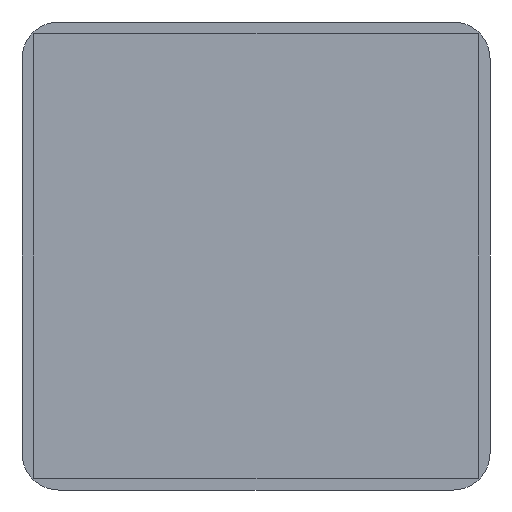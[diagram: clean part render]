
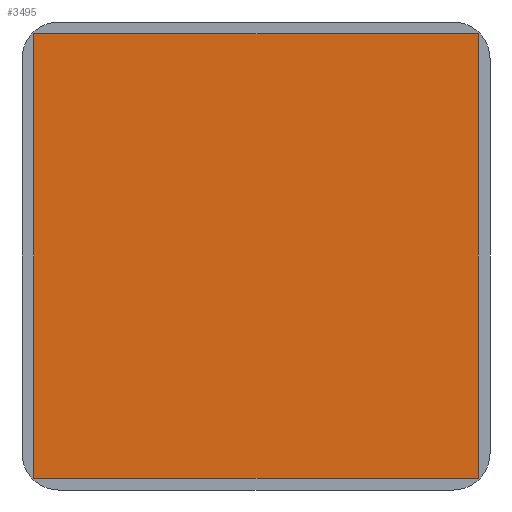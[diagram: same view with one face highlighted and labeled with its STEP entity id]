
A CAD part, front view. The second image highlights one B-rep face of the part: STEP entity #3495.
In plain terms, the highlighted planar face has unit normal (0, -1, 0).
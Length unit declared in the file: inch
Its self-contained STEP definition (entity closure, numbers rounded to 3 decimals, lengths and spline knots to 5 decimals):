
#15 = ORIENTED_EDGE ( 'NONE', *, *, #3792, .T. ) ;
#75 = VERTEX_POINT ( 'NONE', #8467 ) ;
#282 = ORIENTED_EDGE ( 'NONE', *, *, #5200, .T. ) ;
#359 = CARTESIAN_POINT ( 'NONE',  ( 0.7874, -0.005, -0.7874 ) ) ;
#2169 = VECTOR ( 'NONE', #8563, 39.37008 ) ;
#2179 = VECTOR ( 'NONE', #8699, 39.37008 ) ;
#2326 = EDGE_CURVE ( 'NONE', #7856, #75, #4752, .T. ) ;
#2500 = DIRECTION ( 'NONE',  ( 0., 0., 1. ) ) ;
#3152 = VECTOR ( 'NONE', #4845, 39.37008 ) ;
#3268 = ORIENTED_EDGE ( 'NONE', *, *, #2326, .T. ) ;
#3272 = LINE ( 'NONE', #359, #8186 ) ;
#3495 = ADVANCED_FACE ( 'NONE', ( #3629 ), #6594, .T. ) ;
#3629 = FACE_OUTER_BOUND ( 'NONE', #7209, .T. ) ;
#3792 = EDGE_CURVE ( 'NONE', #4961, #9429, #5529, .T. ) ;
#3922 = CARTESIAN_POINT ( 'NONE',  ( 0.7874, -0.005, -0.7874 ) ) ;
#4040 = CARTESIAN_POINT ( 'NONE',  ( 0.7874, -0.005, -0.7874 ) ) ;
#4268 = CARTESIAN_POINT ( 'NONE',  ( -0.7874, -0.005, 0.7874 ) ) ;
#4752 = LINE ( 'NONE', #7769, #3152 ) ;
#4845 = DIRECTION ( 'NONE',  ( 0., 0., -1. ) ) ;
#4934 = EDGE_CURVE ( 'NONE', #75, #4961, #3272, .T. ) ;
#4961 = VERTEX_POINT ( 'NONE', #3922 ) ;
#5200 = EDGE_CURVE ( 'NONE', #9429, #7856, #5386, .T. ) ;
#5386 = LINE ( 'NONE', #8385, #2179 ) ;
#5500 = DIRECTION ( 'NONE',  ( 1., 0., 0. ) ) ;
#5529 = LINE ( 'NONE', #4040, #2169 ) ;
#6141 = CARTESIAN_POINT ( 'NONE',  ( 0.7874, -0.005, 0.7874 ) ) ;
#6594 = PLANE ( 'NONE',  #9486 ) ;
#7031 = DIRECTION ( 'NONE',  ( 0., -1., 0. ) ) ;
#7209 = EDGE_LOOP ( 'NONE', ( #15, #282, #3268, #7998 ) ) ;
#7769 = CARTESIAN_POINT ( 'NONE',  ( -0.7874, -0.005, -0.7874 ) ) ;
#7856 = VERTEX_POINT ( 'NONE', #4268 ) ;
#7998 = ORIENTED_EDGE ( 'NONE', *, *, #4934, .T. ) ;
#8186 = VECTOR ( 'NONE', #5500, 39.37008 ) ;
#8385 = CARTESIAN_POINT ( 'NONE',  ( 0.7874, -0.005, 0.7874 ) ) ;
#8467 = CARTESIAN_POINT ( 'NONE',  ( -0.7874, -0.005, -0.7874 ) ) ;
#8563 = DIRECTION ( 'NONE',  ( 0., 0., 1. ) ) ;
#8699 = DIRECTION ( 'NONE',  ( -1., 0., 0. ) ) ;
#8989 = CARTESIAN_POINT ( 'NONE',  ( 0.7874, -0.005, 0.7874 ) ) ;
#9429 = VERTEX_POINT ( 'NONE', #8989 ) ;
#9486 = AXIS2_PLACEMENT_3D ( 'NONE', #6141, #7031, #2500 ) ;
